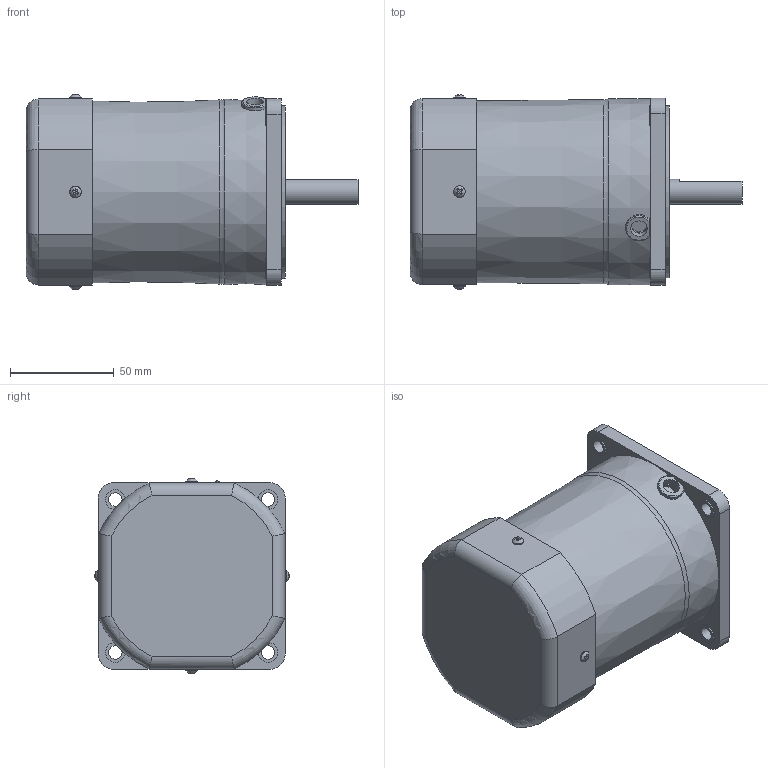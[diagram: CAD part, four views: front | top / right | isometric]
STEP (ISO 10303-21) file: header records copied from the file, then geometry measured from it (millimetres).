
FILE_DESCRIPTION((''),'2;1');
FILE_NAME('D:\STP파일\60W MOTOR\S9I60D.stp','2013-05-20T18:03:21',('leebh'),(''),'Autodesk Inventor 2011','Autodesk Inventor 2011','');
FILE_SCHEMA(('AUTOMOTIVE_DESIGN { 1 0 10303 214 1 1 1 1 }'));
Length unit declared in the file: millimetre
Products named in the file (1): 부품1
Bounding box: 159.8 x 93.56 x 94.07 mm (x, y, z)
Volume: 792843 mm3; surface area: 57895.6 mm2
Topology: 1 solids, 3 shells, 182 faces, 438 edges, 284 vertices
Faces by surface type: plane 109, cylinder 49, torus 14, cone 6, bspline 4
Full cylindrical faces by diameter (mm): 3 x4, 3.5 x4, 5.6 x4, 6.5 x4, 8 x1, 9.5 x4, 10 x1, 12 x1, 40 x1, 83 x1
Entity records: 5517 total; most frequent: CARTESIAN_POINT 1423, DIRECTION 794, ORIENTED_EDGE 764, EDGE_CURVE 382, AXIS2_PLACEMENT_3D 294, VERTEX_POINT 273, EDGE_LOOP 261, VECTOR 206
